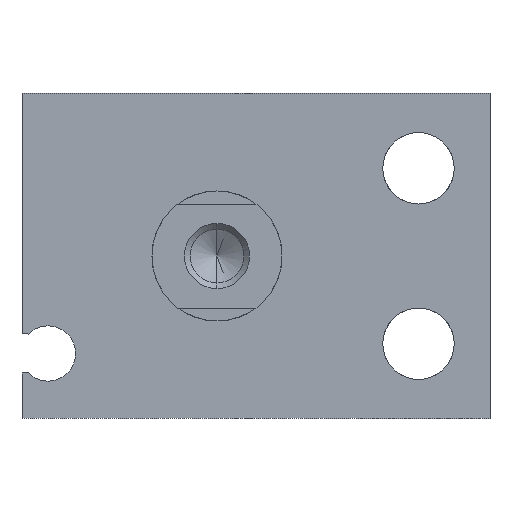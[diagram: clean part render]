
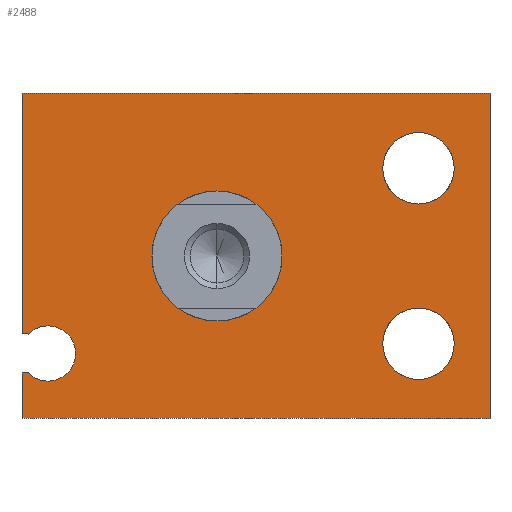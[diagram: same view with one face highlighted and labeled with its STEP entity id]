
A CAD part, left-side view. The second image highlights one B-rep face of the part: STEP entity #2488.
In plain terms, the highlighted planar face has unit normal (-1, 0, 0).
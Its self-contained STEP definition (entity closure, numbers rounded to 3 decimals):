
#49 = DIRECTION ( 'NONE',  ( 0., 0., 1. ) ) ;
#54 = CARTESIAN_POINT ( 'NONE',  ( 0., 15., 12.5 ) ) ;
#67 = VERTEX_POINT ( 'NONE', #1816 ) ;
#89 = CARTESIAN_POINT ( 'NONE',  ( 0., 13., -9.625 ) ) ;
#95 = EDGE_CURVE ( 'NONE', #2775, #1360, #708, .T. ) ;
#104 = LINE ( 'NONE', #1617, #2946 ) ;
#114 = CARTESIAN_POINT ( 'NONE',  ( 0., -15.5, 9.5 ) ) ;
#145 = PLANE ( 'NONE',  #2047 ) ;
#150 = CIRCLE ( 'NONE', #585, 2.75 ) ;
#151 = LINE ( 'NONE', #2159, #514 ) ;
#156 = CARTESIAN_POINT ( 'NONE',  ( 0., 13., -7.5 ) ) ;
#164 = CARTESIAN_POINT ( 'NONE',  ( 0., -21., 12.5 ) ) ;
#179 = DIRECTION ( 'NONE',  ( 0., 0., 1. ) ) ;
#228 = DIRECTION ( 'NONE',  ( 0., 1., 0. ) ) ;
#261 = VERTEX_POINT ( 'NONE', #164 ) ;
#288 = CIRCLE ( 'NONE', #2122, 5. ) ;
#304 = LINE ( 'NONE', #2292, #1591 ) ;
#352 = CARTESIAN_POINT ( 'NONE',  ( 0., 13., -5.375 ) ) ;
#422 = VERTEX_POINT ( 'NONE', #2451 ) ;
#452 = VERTEX_POINT ( 'NONE', #1993 ) ;
#458 = ORIENTED_EDGE ( 'NONE', *, *, #1679, .T. ) ;
#500 = EDGE_CURVE ( 'NONE', #261, #2315, #2684, .T. ) ;
#514 = VECTOR ( 'NONE', #1167, 1000. ) ;
#532 = ORIENTED_EDGE ( 'NONE', *, *, #2288, .T. ) ;
#537 = EDGE_CURVE ( 'NONE', #1561, #3016, #2226, .T. ) ;
#553 = DIRECTION ( 'NONE',  ( 0., 0., 1. ) ) ;
#585 = AXIS2_PLACEMENT_3D ( 'NONE', #1556, #2304, #49 ) ;
#708 = CIRCLE ( 'NONE', #2080, 2.125 ) ;
#717 = ORIENTED_EDGE ( 'NONE', *, *, #1355, .T. ) ;
#738 = ORIENTED_EDGE ( 'NONE', *, *, #2507, .T. ) ;
#757 = CARTESIAN_POINT ( 'NONE',  ( 0., -21., -12.5 ) ) ;
#807 = VERTEX_POINT ( 'NONE', #899 ) ;
#835 = DIRECTION ( 'NONE',  ( 1., 0., 0. ) ) ;
#858 = VERTEX_POINT ( 'NONE', #1916 ) ;
#864 = CARTESIAN_POINT ( 'NONE',  ( 0., -21., -12.5 ) ) ;
#899 = CARTESIAN_POINT ( 'NONE',  ( 0., -15.5, -9.5 ) ) ;
#932 = DIRECTION ( 'NONE',  ( -1., 0., 0. ) ) ;
#936 = CARTESIAN_POINT ( 'NONE',  ( 0., 14.505, -6. ) ) ;
#986 = DIRECTION ( 'NONE',  ( 0., 1., 0. ) ) ;
#1059 = DIRECTION ( 'NONE',  ( 0., 0., -1. ) ) ;
#1065 = DIRECTION ( 'NONE',  ( -1., 0., 0. ) ) ;
#1126 = FACE_OUTER_BOUND ( 'NONE', #2643, .T. ) ;
#1149 = ORIENTED_EDGE ( 'NONE', *, *, #3213, .T. ) ;
#1159 = VECTOR ( 'NONE', #986, 1000. ) ;
#1167 = DIRECTION ( 'NONE',  ( 0., -1., 0. ) ) ;
#1174 = CARTESIAN_POINT ( 'NONE',  ( 0., 13., -7.5 ) ) ;
#1180 = AXIS2_PLACEMENT_3D ( 'NONE', #1785, #1735, #2727 ) ;
#1181 = AXIS2_PLACEMENT_3D ( 'NONE', #2393, #1387, #1699 ) ;
#1206 = EDGE_CURVE ( 'NONE', #422, #1702, #104, .T. ) ;
#1236 = DIRECTION ( 'NONE',  ( -1., 0., 0. ) ) ;
#1239 = DIRECTION ( 'NONE',  ( -1., 0., 0. ) ) ;
#1248 = ORIENTED_EDGE ( 'NONE', *, *, #2165, .T. ) ;
#1317 = CARTESIAN_POINT ( 'NONE',  ( 0., 13., -7.5 ) ) ;
#1355 = EDGE_CURVE ( 'NONE', #858, #2259, #288, .T. ) ;
#1360 = VERTEX_POINT ( 'NONE', #89 ) ;
#1381 = DIRECTION ( 'NONE',  ( 0., -1., 0. ) ) ;
#1387 = DIRECTION ( 'NONE',  ( -1., 0., 0. ) ) ;
#1455 = VECTOR ( 'NONE', #228, 1000. ) ;
#1470 = EDGE_LOOP ( 'NONE', ( #458, #717 ) ) ;
#1505 = CARTESIAN_POINT ( 'NONE',  ( 0., -15.5, -6.75 ) ) ;
#1518 = ORIENTED_EDGE ( 'NONE', *, *, #2709, .F. ) ;
#1521 = AXIS2_PLACEMENT_3D ( 'NONE', #2023, #1787, #1542 ) ;
#1542 = DIRECTION ( 'NONE',  ( 0., 0., 1. ) ) ;
#1556 = CARTESIAN_POINT ( 'NONE',  ( 0., -15.5, 6.75 ) ) ;
#1561 = VERTEX_POINT ( 'NONE', #114 ) ;
#1584 = CARTESIAN_POINT ( 'NONE',  ( 0., 0., -5. ) ) ;
#1588 = ORIENTED_EDGE ( 'NONE', *, *, #1920, .F. ) ;
#1591 = VECTOR ( 'NONE', #1059, 1000. ) ;
#1617 = CARTESIAN_POINT ( 'NONE',  ( 0., 15., -12.5 ) ) ;
#1678 = EDGE_CURVE ( 'NONE', #807, #452, #2697, .T. ) ;
#1679 = EDGE_CURVE ( 'NONE', #2259, #858, #2809, .T. ) ;
#1699 = DIRECTION ( 'NONE',  ( 0., 0., 1. ) ) ;
#1702 = VERTEX_POINT ( 'NONE', #757 ) ;
#1735 = DIRECTION ( 'NONE',  ( 1., 0., 0. ) ) ;
#1765 = AXIS2_PLACEMENT_3D ( 'NONE', #1505, #1236, #2509 ) ;
#1783 = CIRCLE ( 'NONE', #1521, 2.125 ) ;
#1785 = CARTESIAN_POINT ( 'NONE',  ( 0., 0., 0. ) ) ;
#1787 = DIRECTION ( 'NONE',  ( -1., 0., 0. ) ) ;
#1816 = CARTESIAN_POINT ( 'NONE',  ( 0., 15., -9. ) ) ;
#1851 = VERTEX_POINT ( 'NONE', #3027 ) ;
#1878 = DIRECTION ( 'NONE',  ( 0., 0., -1. ) ) ;
#1916 = CARTESIAN_POINT ( 'NONE',  ( 0., 0., 5. ) ) ;
#1920 = EDGE_CURVE ( 'NONE', #2204, #2970, #2962, .T. ) ;
#1936 = ORIENTED_EDGE ( 'NONE', *, *, #1206, .T. ) ;
#1963 = VECTOR ( 'NONE', #553, 1000. ) ;
#1993 = CARTESIAN_POINT ( 'NONE',  ( 0., -15.5, -4. ) ) ;
#2006 = EDGE_CURVE ( 'NONE', #452, #807, #3075, .T. ) ;
#2022 = ORIENTED_EDGE ( 'NONE', *, *, #500, .T. ) ;
#2023 = CARTESIAN_POINT ( 'NONE',  ( 0., 13., -7.5 ) ) ;
#2047 = AXIS2_PLACEMENT_3D ( 'NONE', #1174, #1239, #2211 ) ;
#2080 = AXIS2_PLACEMENT_3D ( 'NONE', #1317, #1065, #3072 ) ;
#2122 = AXIS2_PLACEMENT_3D ( 'NONE', #2371, #835, #1878 ) ;
#2159 = CARTESIAN_POINT ( 'NONE',  ( 0., 15., -6. ) ) ;
#2165 = EDGE_CURVE ( 'NONE', #1702, #261, #2337, .T. ) ;
#2192 = ORIENTED_EDGE ( 'NONE', *, *, #2973, .T. ) ;
#2204 = VERTEX_POINT ( 'NONE', #352 ) ;
#2211 = DIRECTION ( 'NONE',  ( 0., 0., 1. ) ) ;
#2226 = CIRCLE ( 'NONE', #2285, 2.75 ) ;
#2229 = LINE ( 'NONE', #2383, #1159 ) ;
#2259 = VERTEX_POINT ( 'NONE', #1584 ) ;
#2285 = AXIS2_PLACEMENT_3D ( 'NONE', #2434, #3208, #179 ) ;
#2288 = EDGE_CURVE ( 'NONE', #2315, #1851, #304, .T. ) ;
#2292 = CARTESIAN_POINT ( 'NONE',  ( 0., 15., 12.5 ) ) ;
#2304 = DIRECTION ( 'NONE',  ( -1., 0., 0. ) ) ;
#2315 = VERTEX_POINT ( 'NONE', #54 ) ;
#2337 = LINE ( 'NONE', #864, #1963 ) ;
#2371 = CARTESIAN_POINT ( 'NONE',  ( 0., 0., 0. ) ) ;
#2383 = CARTESIAN_POINT ( 'NONE',  ( 0., 14.505, -9. ) ) ;
#2393 = CARTESIAN_POINT ( 'NONE',  ( 0., -15.5, -6.75 ) ) ;
#2402 = FACE_BOUND ( 'NONE', #3091, .T. ) ;
#2417 = FACE_BOUND ( 'NONE', #1470, .T. ) ;
#2434 = CARTESIAN_POINT ( 'NONE',  ( 0., -15.5, 6.75 ) ) ;
#2449 = VECTOR ( 'NONE', #2910, 1000. ) ;
#2451 = CARTESIAN_POINT ( 'NONE',  ( 0., 15., -12.5 ) ) ;
#2467 = CARTESIAN_POINT ( 'NONE',  ( 0., -21., 12.5 ) ) ;
#2469 = CARTESIAN_POINT ( 'NONE',  ( 0., -15.5, 4. ) ) ;
#2488 = ADVANCED_FACE ( 'NONE', ( #1126, #2417, #3241, #2402 ), #145, .T. ) ;
#2507 = EDGE_CURVE ( 'NONE', #2775, #67, #2229, .T. ) ;
#2509 = DIRECTION ( 'NONE',  ( 0., 0., 1. ) ) ;
#2567 = EDGE_CURVE ( 'NONE', #3016, #1561, #150, .T. ) ;
#2583 = CARTESIAN_POINT ( 'NONE',  ( 0., 14.505, -9. ) ) ;
#2642 = DIRECTION ( 'NONE',  ( 0., 0., 1. ) ) ;
#2643 = EDGE_LOOP ( 'NONE', ( #1936, #1248, #2022, #532, #1149, #1588, #1518, #3185, #738, #2192 ) ) ;
#2679 = CARTESIAN_POINT ( 'NONE',  ( 0., 15., -9. ) ) ;
#2684 = LINE ( 'NONE', #2467, #1455 ) ;
#2690 = ORIENTED_EDGE ( 'NONE', *, *, #2567, .F. ) ;
#2697 = CIRCLE ( 'NONE', #1765, 2.75 ) ;
#2709 = EDGE_CURVE ( 'NONE', #1360, #2204, #1783, .T. ) ;
#2711 = ORIENTED_EDGE ( 'NONE', *, *, #2006, .F. ) ;
#2727 = DIRECTION ( 'NONE',  ( 0., 0., -1. ) ) ;
#2775 = VERTEX_POINT ( 'NONE', #2583 ) ;
#2809 = CIRCLE ( 'NONE', #1180, 5. ) ;
#2863 = EDGE_LOOP ( 'NONE', ( #2711, #3109 ) ) ;
#2910 = DIRECTION ( 'NONE',  ( 0., 0., -1. ) ) ;
#2946 = VECTOR ( 'NONE', #1381, 1000. ) ;
#2957 = LINE ( 'NONE', #2679, #2449 ) ;
#2962 = CIRCLE ( 'NONE', #3020, 2.125 ) ;
#2970 = VERTEX_POINT ( 'NONE', #936 ) ;
#2973 = EDGE_CURVE ( 'NONE', #67, #422, #2957, .T. ) ;
#3016 = VERTEX_POINT ( 'NONE', #2469 ) ;
#3020 = AXIS2_PLACEMENT_3D ( 'NONE', #156, #932, #2642 ) ;
#3027 = CARTESIAN_POINT ( 'NONE',  ( 0., 15., -6. ) ) ;
#3028 = ORIENTED_EDGE ( 'NONE', *, *, #537, .F. ) ;
#3072 = DIRECTION ( 'NONE',  ( 0., 0., 1. ) ) ;
#3075 = CIRCLE ( 'NONE', #1181, 2.75 ) ;
#3091 = EDGE_LOOP ( 'NONE', ( #3028, #2690 ) ) ;
#3109 = ORIENTED_EDGE ( 'NONE', *, *, #1678, .F. ) ;
#3185 = ORIENTED_EDGE ( 'NONE', *, *, #95, .F. ) ;
#3208 = DIRECTION ( 'NONE',  ( -1., 0., 0. ) ) ;
#3213 = EDGE_CURVE ( 'NONE', #1851, #2970, #151, .T. ) ;
#3241 = FACE_BOUND ( 'NONE', #2863, .T. ) ;
